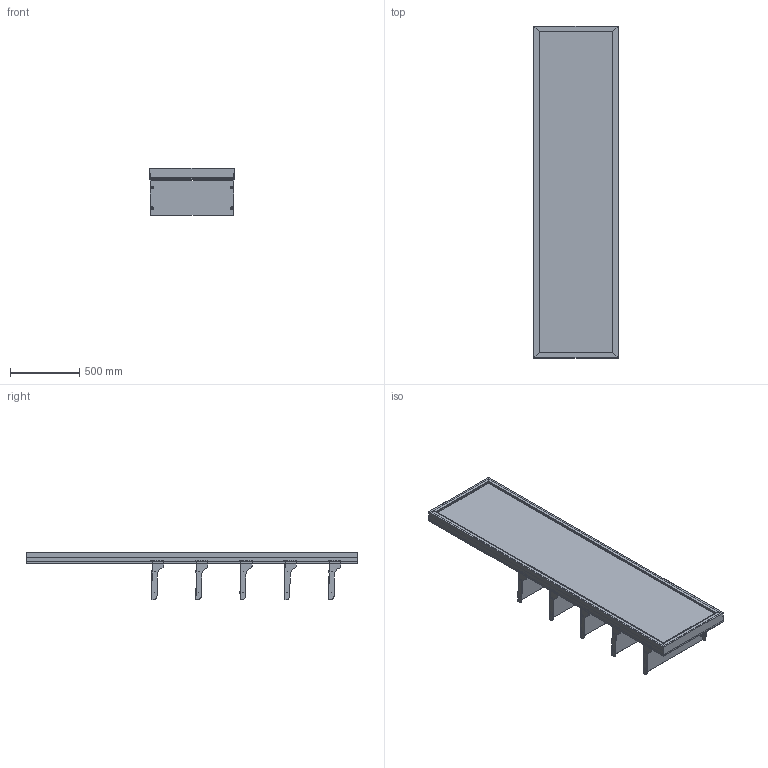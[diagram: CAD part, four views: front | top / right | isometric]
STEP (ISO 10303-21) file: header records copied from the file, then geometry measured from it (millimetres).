
FILE_DESCRIPTION (( 'STEP AP214' ), '1' );
FILE_NAME ('Slotted UpBright? 610mm Golf Shoe Display Wall (Glass).STEP', '2026-03-31T04:18:06', ( '' ), ( '' ), 'SwSTEP 2.0', 'SolidWorks 2025', '' );
FILE_SCHEMA (( 'AUTOMOTIVE_DESIGN' ));
Length unit declared in the file: millimetre
Products named in the file (11): 0001-31-SA28 - 610W Glass Shelf.STEP; 0001-31-SA29.STEP; 0001-31-123.STEP; 0001-31-114.STEP; 0000-31-113.STEP; 0001-31-124.STEP; 0001-31-GA01 - 610W Slotted Upright; 0001-31-115.STEP; Slotted UpBright® 610mm Golf Shoe Display Wall (Glass); 0001-31-SA28 - 610W Glass Shelf; 0001-31-SA30.STEP
Assembly tree (28 placements, depth 5):
  Slotted UpBright® 610mm Golf Shoe Display Wall (Glass)
    0001-31-GA01 - 610W Slotted Upright
    0001-31-SA28 - 610W Glass Shelf  x5
      0001-31-SA28 - 610W Glass Shelf.STEP
        0001-31-SA29.STEP
          0000-31-113.STEP
          0001-31-114.STEP  x2
        0001-31-SA30.STEP
          0000-31-113.STEP
          0001-31-114.STEP  x2
        0001-31-115.STEP
        0001-31-123.STEP  x8
        0001-31-124.STEP  x4
Bounding box: 609.75 x 2400 x 340.44 mm (x, y, z)
Volume: 12849372.1 mm3; surface area: 9794289.7 mm2
Topology: 101 solids, 101 shells, 1860 faces, 4876 edges, 3184 vertices
Faces by surface type: plane 1202, cylinder 578, cone 80
Entity records: 18463 total; most frequent: CARTESIAN_POINT 3541, ORIENTED_EDGE 3268, DIRECTION 2688, EDGE_CURVE 1634, LINE 1466, VECTOR 1466, VERTEX_POINT 1080, AXIS2_PLACEMENT_3D 611
